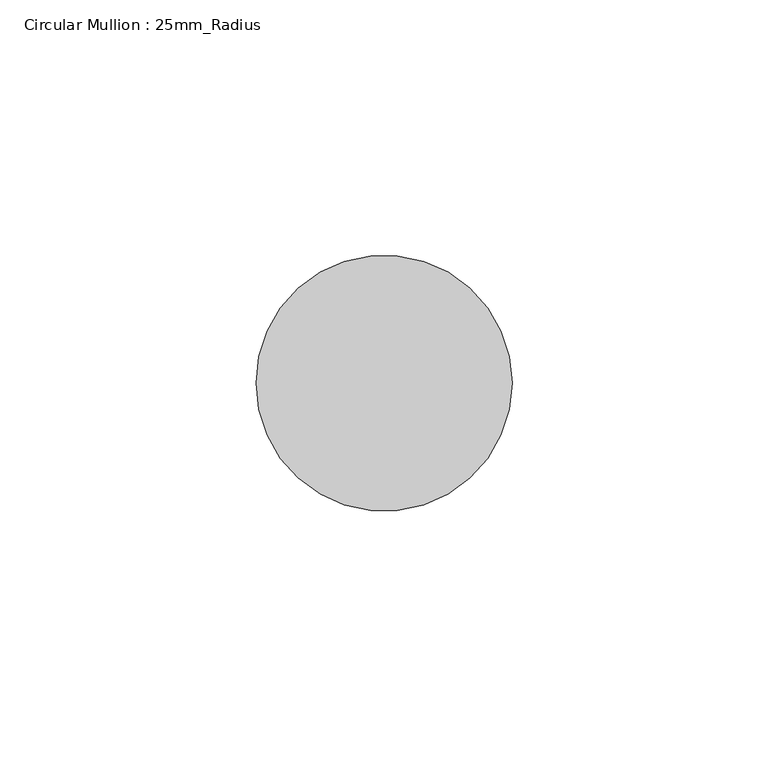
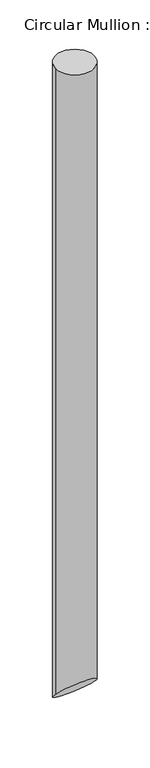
"""IFC4 building model written with IfcOpenShell, lengths in millimetres: member geometry, Circular Mullion : 25mm_Radius."""

from ifc_helpers import new_model, si_unit, frame, origin, place, context, project, spatial, circle_curve, ellipse_curve, source, transform, mapped, element, save
from ifc_brep_helpers import plane_surface, cylinder_surface, advanced_brep


def circular_mullion_25mm_radius_3be54365(model_context):
    return source(origin(), model_context, "Body", "AdvancedBrep", [
        advanced_brep(
        [(0.0, 0.0, 0.0), (-50.0, 0.0, 0.0), (0.0, 0.0, -856.0), (-50.0, 0.0, -856.0)],
        [
            (0, 1, circle_curve(frame((-25.0, 0.0, 0.0), z_axis=(0.0, 0.0, 1.0), x_axis=(1.0, 0.0, 0.0)), 25.0)),
            (1, 0, circle_curve(frame((-25.0, 0.0, 0.0), z_axis=(0.0, 0.0, 1.0), x_axis=(1.0, 0.0, 0.0)), 25.0)),
            (0, 2),
            (2, 3, ellipse_curve(frame((-25.0, 0.0, -856.0), z_axis=(0.0, 0.7071067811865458, 0.7071067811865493), x_axis=(0.0, -0.7071067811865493, 0.7071067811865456)), 35.3553391, 25.0)),
            (3, 1),
            (3, 2, ellipse_curve(frame((-25.0, 0.0, -856.0), z_axis=(0.0, 0.7071067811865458, 0.7071067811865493), x_axis=(0.0, -0.7071067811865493, 0.7071067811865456)), 35.3553391, 25.0)),
        ],
        [
            plane_surface(frame((0.0, -50.0, 0.0), z_axis=(0.0, 0.0, 1.0), x_axis=(-1.0, 0.0, 0.0))),
            cylinder_surface(frame((-25.0, 0.0, 0.0), z_axis=(0.0, 0.0, 1.0), x_axis=(1.0, 0.0, 0.0)), 25.0),
            plane_surface(frame((304.8, 0.0, -856.0), z_axis=(0.0, -0.7071067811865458, -0.7071067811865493), x_axis=(0.0, -0.7071067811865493, 0.7071067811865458))),
        ],
        [
            (0, [[1, 2]]),
            (1, [[-1, 3, 4, 5]]),
            (1, [[-2, -5, 6, -3]]),
            (2, [[-6, -4]]),
        ],
    ),
    ])


if __name__ == "__main__":
    model = new_model("IFC4")
    model_context = context("Model", 3, world=origin())
    ifc_project = project(units=[si_unit("LENGTHUNIT", "METRE", prefix="MILLI")], contexts=[model_context])
    site = spatial("IfcSite", under=ifc_project)
    building = spatial("IfcBuilding", under=site)
    placement = place(None, origin())
    circular_mullion_25mm_radius_shape = circular_mullion_25mm_radius_3be54365(model_context)
    element("IfcMember", 1, ObjectType="Circular Mullion : 25mm_Radius", at=placement, inside=building, context=model_context, shape_type="MappedRepresentation", body=[
        mapped(circular_mullion_25mm_radius_shape, transform((0.0, 0.0, 0.0), x_axis=(1.0, 0.0, 0.0), y_axis=(0.0, 1.0, 0.0), z_axis=(0.0, 0.0, 1.0))),
    ])
    save(model, "model.ifc")
